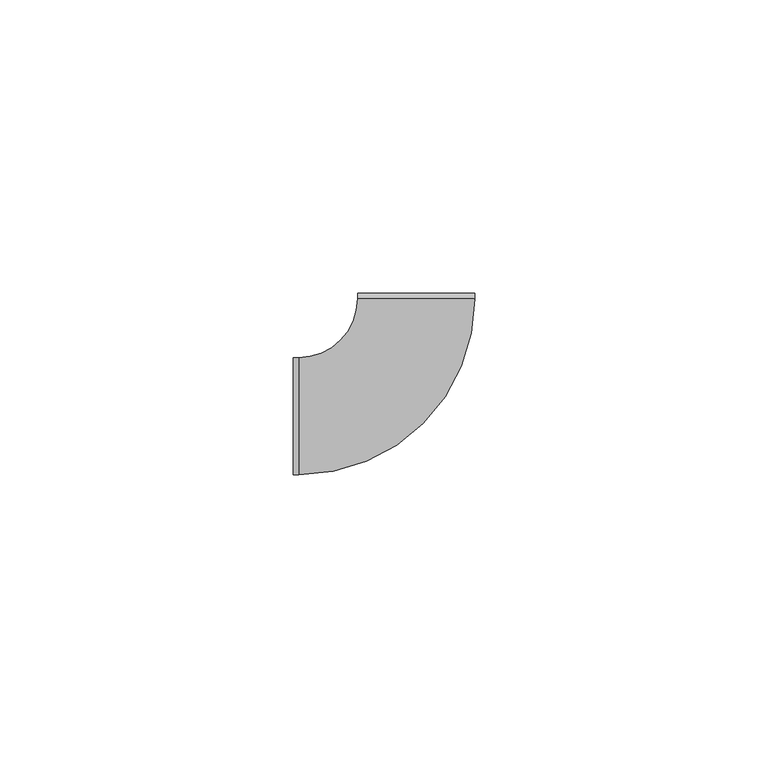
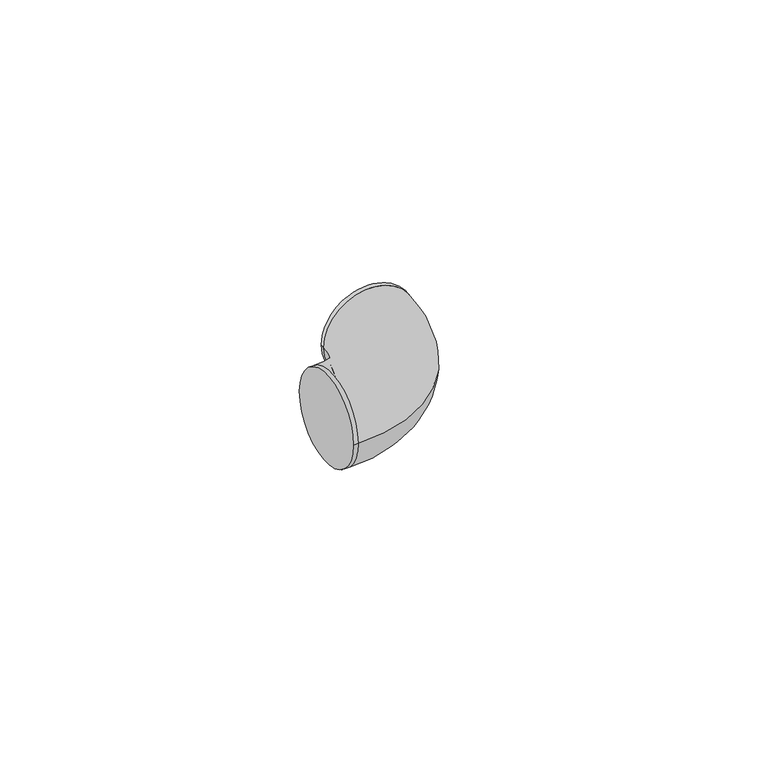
"""IFC4 building model written with IfcOpenShell, lengths in millimetres: cable carrier fitting geometry, ADSK_Поворот_Минимальный размер : Неспецифицируемый."""

from ifc_helpers import new_model, si_unit, point, frame, origin, place, context, project, spatial, circle_curve, ellipse_curve, trimmed, source, transform, mapped, element, save
from ifc_brep_helpers import plane_surface, cylinder_surface, revolved_surface, advanced_brep


def cable_carrier_fitting_06b5819c(model_context):
    return source(origin(), model_context, "Body", "AdvancedBrep", [
        advanced_brep(
        [(-20.9989448, -10.0, 0.0), (-20.9989448, 10.0, 0.0), (-19.9989448, -10.0, 0.0), (-19.9989448, 10.0, 0.0), (-9.9989449, 19.9994724, 0.0), (10.0010551, 19.9984172, 0.0), (10.0011079, 20.9984172, 0.0), (-9.9988921, 20.9994724, 0.0)],
        [
            (0, 1, circle_curve(frame((-20.9989448, 0.0, 0.0), z_axis=(-1.0, -4.92260399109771e-12, 0.0), x_axis=(-4.92260399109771e-12, 1.0, 0.0)), 10.0)),
            (1, 0, circle_curve(frame((-20.9989448, 0.0, 0.0), z_axis=(-1.0, -4.92260399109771e-12, 0.0), x_axis=(-4.92260399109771e-12, 1.0, 0.0)), 10.0)),
            (0, 2),
            (2, 3, circle_curve(frame((-19.9989448, 0.0, 0.0), z_axis=(-1.0, -4.92260399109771e-12, 0.0), x_axis=(-4.92260399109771e-12, 1.0, 0.0)), 10.0)),
            (3, 1),
            (3, 2, circle_curve(frame((-19.9989448, 0.0, 0.0), z_axis=(-1.0, -4.92260399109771e-12, 0.0), x_axis=(-4.92260399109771e-12, 1.0, 0.0)), 10.0)),
            (4, 3, circle_curve(frame((-19.9989448, 20.0, 0.0), z_axis=(0.0, 0.0, -1.0), x_axis=(0.0, -1.0, 0.0)), 10.0)),
            (2, 5, circle_curve(frame((-19.9989448, 20.0, 0.0), z_axis=(0.0, 0.0, 1.0), x_axis=(0.0, -1.0, 0.0)), 30.0)),
            (5, 4, circle_curve(frame((0.0010551, 19.9989448, 0.0), z_axis=(-5.2758968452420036e-05, -0.9999999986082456, 0.0), x_axis=(-0.9999999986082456, 5.2758968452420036e-05, 0.0)), 10.0)),
            (4, 5, circle_curve(frame((0.0010551, 19.9989448, 0.0), z_axis=(-5.2758968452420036e-05, -0.9999999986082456, 0.0), x_axis=(-0.9999999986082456, 5.2758968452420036e-05, 0.0)), 10.0)),
            (6, 7, circle_curve(frame((0.0011079, 20.9989448, 0.0), z_axis=(5.2758968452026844e-05, 0.9999999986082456, 0.0), x_axis=(-0.9999999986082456, 5.2758968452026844e-05, 0.0)), 10.0)),
            (7, 6, circle_curve(frame((0.0011079, 20.9989448, 0.0), z_axis=(5.2758968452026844e-05, 0.9999999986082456, 0.0), x_axis=(-0.9999999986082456, 5.2758968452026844e-05, 0.0)), 10.0)),
            (5, 6),
            (7, 4),
        ],
        [
            plane_surface(frame((-20.9989448, 0.0, 0.0), z_axis=(-1.0, -4.92260399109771e-12, 0.0), x_axis=(0.0, 0.0, 1.0))),
            cylinder_surface(frame((-20.9989448, 0.0, 0.0), z_axis=(-1.0, -4.92260399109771e-12, 0.0), x_axis=(-4.92260399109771e-12, 1.0, 0.0)), 10.0),
            revolved_surface(trimmed(ellipse_curve(frame((-19.9989448, 0.0, 0.0), z_axis=(-1.0, 0.0, 0.0), x_axis=(0.0, 1.0, 0.0)), 10.0, 10.0), [point((-19.9989448, -10.0, 0.0))], [point((-19.9989448, 10.0, 0.0))], True, "CARTESIAN"), (-19.9989448, 20.0, 0.0), (0.0, 0.0, 1.0)),
            revolved_surface(trimmed(ellipse_curve(frame((-19.9989448, 0.0, 0.0), z_axis=(-1.0, 0.0, 0.0), x_axis=(0.0, 1.0, 0.0)), 10.0, 10.0), [point((-19.9989448, 10.0, 0.0))], [point((-19.9989448, -10.0, 0.0))], True, "CARTESIAN"), (-19.9989448, 20.0, 0.0), (0.0, 0.0, 1.0)),
            plane_surface(frame((0.0011079, 20.9989448, 0.0), z_axis=(5.2758968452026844e-05, 0.9999999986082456, 0.0), x_axis=(0.0, 0.0, 1.0))),
            cylinder_surface(frame((0.0010551, 19.9989448, 0.0), z_axis=(-5.2758968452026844e-05, -0.9999999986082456, 0.0), x_axis=(-0.9999999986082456, 5.2758968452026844e-05, 0.0)), 10.0),
        ],
        [
            (0, [[1, 2]]),
            (1, [[-1, 3, 4, 5]]),
            (1, [[-2, -5, 6, -3]]),
            (2, [[7, -4, 8, 9]]),
            (3, [[-8, -6, -7, 10]]),
            (4, [[11, 12]]),
            (5, [[-9, 13, -12, 14]]),
            (5, [[-10, -14, -11, -13]]),
        ],
    ),
    ])


if __name__ == "__main__":
    model = new_model("IFC4")
    model_context = context("Model", 3, world=origin())
    ifc_project = project(units=[si_unit("LENGTHUNIT", "METRE", prefix="MILLI")], contexts=[model_context])
    site = spatial("IfcSite", under=ifc_project)
    building = spatial("IfcBuilding", under=site)
    placement = place(None, origin())
    cable_carrier_fitting_shape = cable_carrier_fitting_06b5819c(model_context)
    element("IfcCableCarrierFitting", 1, ObjectType="ADSK_Поворот_Минимальный размер : Неспецифицируемый", at=placement, inside=building, context=model_context, shape_type="MappedRepresentation", body=[
        mapped(cable_carrier_fitting_shape, transform((0.0, 0.0, 0.0), x_axis=(1.0, 0.0, 0.0), y_axis=(0.0, 1.0, 0.0), z_axis=(0.0, 0.0, 1.0))),
    ])
    save(model, "model.ifc")
